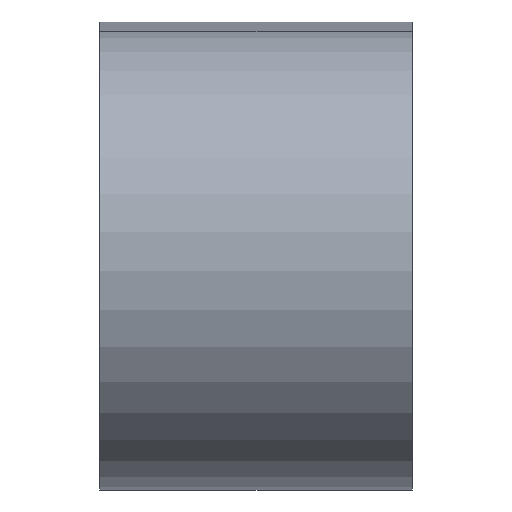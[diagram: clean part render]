
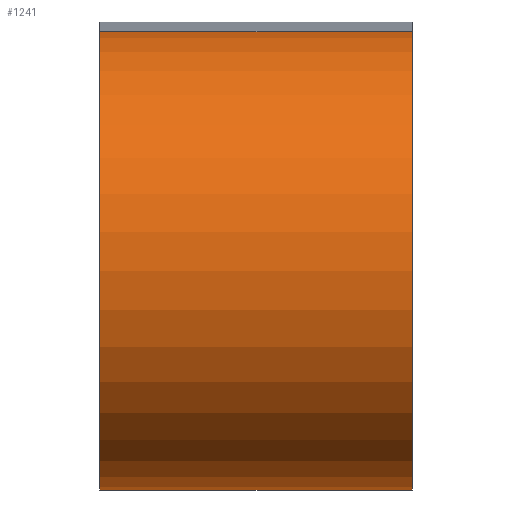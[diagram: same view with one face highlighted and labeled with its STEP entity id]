
A CAD part, left-side view. The second image highlights one B-rep face of the part: STEP entity #1241.
In plain terms, the highlighted cylindrical face has radius 77.2 mm (diameter 154.4 mm), a partial arc.
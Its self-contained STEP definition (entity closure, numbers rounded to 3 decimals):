
#94=CYLINDRICAL_SURFACE('',#1387,77.2);
#160=FACE_OUTER_BOUND('',#244,.T.);
#244=EDGE_LOOP('',(#1128,#1129,#1130,#1131));
#309=CIRCLE('',#1337,77.2);
#326=CIRCLE('',#1388,77.2);
#422=LINE('',#2125,#523);
#424=LINE('',#2129,#525);
#523=VECTOR('',#1733,10.);
#525=VECTOR('',#1737,10.);
#595=VERTEX_POINT('',#1974);
#596=VERTEX_POINT('',#1976);
#638=VERTEX_POINT('',#2124);
#639=VERTEX_POINT('',#2128);
#738=EDGE_CURVE('',#596,#595,#309,.T.);
#809=EDGE_CURVE('',#638,#596,#422,.T.);
#811=EDGE_CURVE('',#639,#595,#424,.T.);
#812=EDGE_CURVE('',#638,#639,#326,.T.);
#1128=ORIENTED_EDGE('',*,*,#738,.T.);
#1129=ORIENTED_EDGE('',*,*,#811,.F.);
#1130=ORIENTED_EDGE('',*,*,#812,.F.);
#1131=ORIENTED_EDGE('',*,*,#809,.T.);
#1241=ADVANCED_FACE('',(#160),#94,.T.);
#1337=AXIS2_PLACEMENT_3D('',#1977,#1580,#1581);
#1387=AXIS2_PLACEMENT_3D('',#2127,#1735,#1736);
#1388=AXIS2_PLACEMENT_3D('',#2130,#1738,#1739);
#1580=DIRECTION('center_axis',(0.,1.,0.));
#1581=DIRECTION('ref_axis',(0.493,0.,-0.87));
#1733=DIRECTION('',(0.,-1.,0.));
#1735=DIRECTION('center_axis',(0.,-1.,0.));
#1736=DIRECTION('ref_axis',(-0.955,0.,-0.297));
#1737=DIRECTION('',(0.,-1.,0.));
#1738=DIRECTION('center_axis',(0.,1.,0.));
#1739=DIRECTION('ref_axis',(0.493,0.,-0.87));
#1974=CARTESIAN_POINT('',(75.786,-52.5,34.207));
#1976=CARTESIAN_POINT('',(120.538,-52.5,-109.879));
#1977=CARTESIAN_POINT('Origin',(82.5,-52.5,-42.7));
#2124=CARTESIAN_POINT('',(120.538,52.5,-109.879));
#2125=CARTESIAN_POINT('',(120.538,52.5,-109.879));
#2127=CARTESIAN_POINT('Origin',(82.5,52.5,-42.7));
#2128=CARTESIAN_POINT('',(75.786,52.5,34.207));
#2129=CARTESIAN_POINT('',(75.786,52.5,34.207));
#2130=CARTESIAN_POINT('Origin',(82.5,52.5,-42.7));
